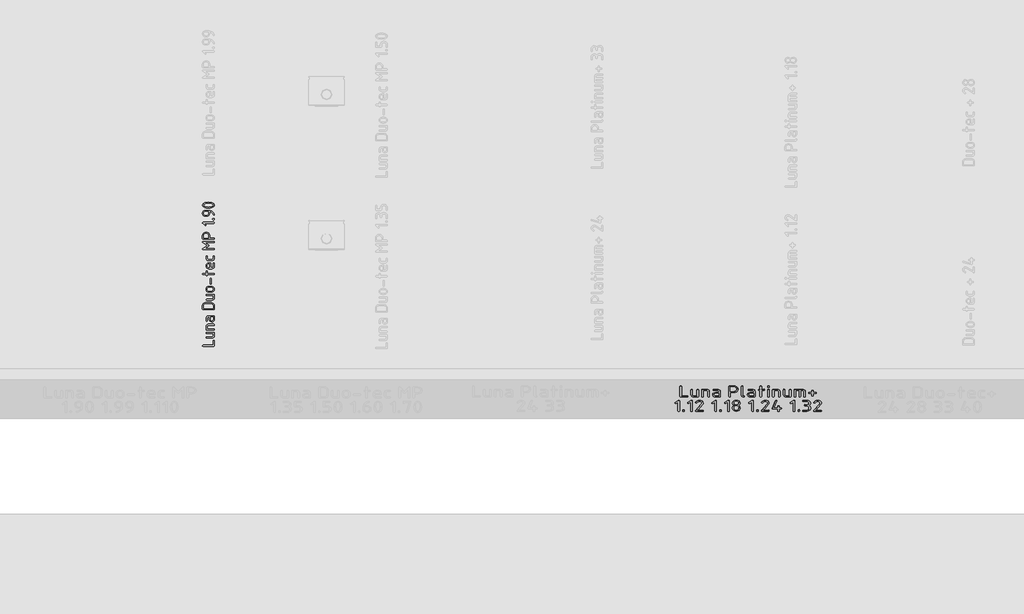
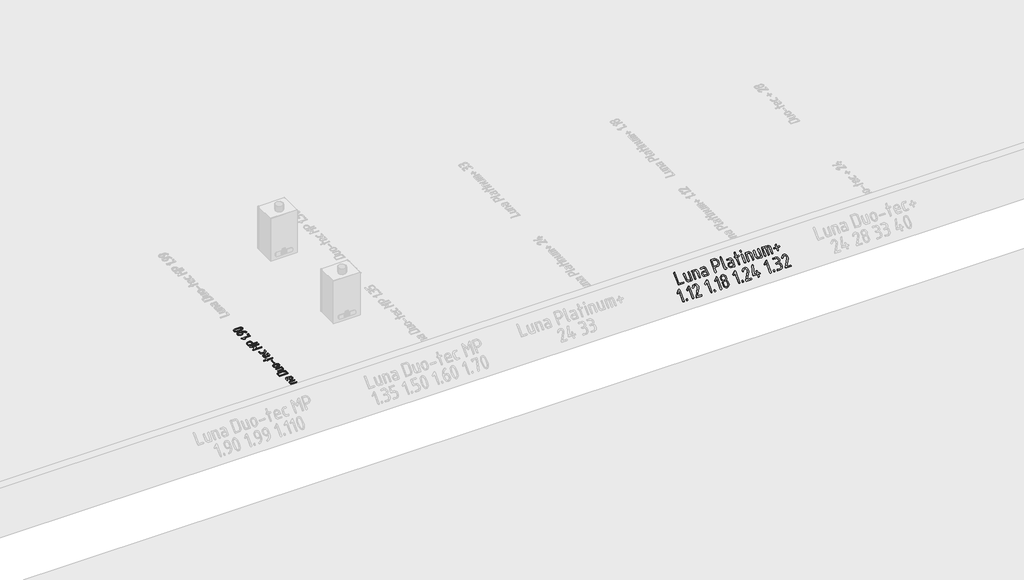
# One storey, part 17 of 37: 2 proxies.
"""IFC4 building model written with IfcOpenShell, lengths in millimetres."""

import ifcopenshell
import ifcopenshell.guid

model = None  # the IFC model being written
_history = None  # IfcOwnerHistory: only IFC2X3 demands one
_inside = {}  # id of a spatial element -> (the spatial element, [elements in it])
_under = {}  # id of a project, library or spatial element -> (it, [spatial elements below it])
_declared = {}  # id of a project -> (the project, [libraries it declares])
_typed = {}  # id of a type object -> (the type object, [elements of that type])
_made_of = {}  # id of a material, layer set ... -> (it, [elements and type objects made of it])


def new_model(schema):
    """Start an empty IFC model of exactly this schema.

    Asked for "IFC4X3", IfcOpenShell would pick the latest addendum, in which some entities
    have other attributes; the version numbers below select the first issue.
    IFC2X3 requires an IfcOwnerHistory on every rooted entity: one is made here for all.
    """
    global model, _history
    if schema == "IFC4X3":
        model = ifcopenshell.file(schema_version=(4, 3, 0, 0))
    else:
        model = ifcopenshell.file(schema=schema)
    _inside.clear()
    _under.clear()
    _declared.clear()
    _typed.clear()
    _made_of.clear()
    _history = None
    if model.schema == "IFC2X3":
        org = make("IfcOrganization", Name="unknown")
        user = make(
            "IfcPersonAndOrganization",
            ThePerson=make("IfcPerson", FamilyName="unknown"),
            TheOrganization=org,
        )
        app = make(
            "IfcApplication",
            ApplicationDeveloper=org,
            Version="unknown",
            ApplicationFullName="unknown",
            ApplicationIdentifier="unknown",
        )
        _history = make(
            "IfcOwnerHistory",
            OwningUser=user,
            OwningApplication=app,
            ChangeAction="ADDED",
            CreationDate=0,
        )
    return model


def make(cls, **values):
    """One entity of the class cls with the attributes given. An attribute that is None is left unset."""
    return model.create_entity(
        cls, **{name: value for name, value in values.items() if value is not None}
    )


def rooted(cls, **values):
    """An entity with a GlobalId (a new one), such as an element, a storey or a relation."""
    return make(cls, GlobalId=ifcopenshell.guid.new(), OwnerHistory=_history, **values)


def si_unit(unit_type, name, prefix=None):
    """IfcSIUnit, for example si_unit("LENGTHUNIT", "METRE", prefix="MILLI")."""
    return make("IfcSIUnit", UnitType=unit_type, Prefix=prefix, Name=name)


def assignment(units):
    """IfcUnitAssignment: the units of a project."""
    return None if units is None else make("IfcUnitAssignment", Units=units)


def point(xyz):
    """IfcCartesianPoint."""
    return None if xyz is None else make("IfcCartesianPoint", Coordinates=xyz)


def direction(xyz):
    """IfcDirection."""
    return None if xyz is None else make("IfcDirection", DirectionRatios=xyz)


def frame(location, z_axis=None, x_axis=None):
    """IfcAxis2Placement3D, a coordinate frame: its origin and axes. An axis left out is left unset."""
    return make(
        "IfcAxis2Placement3D",
        Location=point(location),
        Axis=direction(z_axis),
        RefDirection=direction(x_axis),
    )


def origin():
    """The frame at (0, 0, 0) with its axes left unset."""
    return frame((0.0, 0.0, 0.0))


def origin_with_axes():
    """The frame at (0, 0, 0) with the z axis (0, 0, 1) and the x axis (1, 0, 0) written out."""
    return frame((0.0, 0.0, 0.0), z_axis=(0.0, 0.0, 1.0), x_axis=(1.0, 0.0, 0.0))


def place(relative_to, where):
    """IfcLocalPlacement: puts the frame where relative to a parent placement (None: the world)."""
    return make(
        "IfcLocalPlacement", PlacementRelTo=relative_to, RelativePlacement=where
    )


def context(
    kind, dimensions, precision=None, world=None, true_north=None, identifier=None
):
    """IfcGeometricRepresentationContext, for example the 3D "Model" context."""
    return make(
        "IfcGeometricRepresentationContext",
        ContextIdentifier=identifier,
        ContextType=kind,
        CoordinateSpaceDimension=dimensions,
        Precision=precision,
        WorldCoordinateSystem=world,
        TrueNorth=true_north,
    )


def project(units=None, contexts=None):
    """IfcProject with its units and contexts."""
    return rooted(
        "IfcProject",
        Name="project",
        RepresentationContexts=contexts,
        UnitsInContext=assignment(units),
    )


def spatial(cls, under=None, at=None, **own):
    """A site, building, storey or space (cls), placed at a placement, below another one or the project."""
    s = rooted(cls, ObjectPlacement=at, **own)
    if under is not None:
        _under.setdefault(under.id(), (under, []))[1].append(s)
    return s


def polyline(points):
    """IfcPolyline through the points."""
    return make("IfcPolyline", Points=[point(p) for p in points])


def outline(outer, holes=None, kind="AREA"):
    """IfcArbitraryClosedProfileDef: a profile drawn as a closed curve; with holes, ...WithVoids."""
    if holes is None:
        return make("IfcArbitraryClosedProfileDef", ProfileType=kind, OuterCurve=outer)
    return make(
        "IfcArbitraryProfileDefWithVoids",
        ProfileType=kind,
        OuterCurve=outer,
        InnerCurves=holes,
    )


def extrude(swept, where, along, depth):
    """IfcExtrudedAreaSolid: the profile swept, set in the frame where, extruded along a direction by depth."""
    return make(
        "IfcExtrudedAreaSolid",
        SweptArea=swept,
        Position=where,
        ExtrudedDirection=direction(along),
        Depth=depth,
    )


def shape(context_of_items, identifier, shape_type, items):
    """IfcShapeRepresentation: the items that make up one representation, for example the "Body"."""
    return make(
        "IfcShapeRepresentation",
        ContextOfItems=context_of_items,
        RepresentationIdentifier=identifier,
        RepresentationType=shape_type,
        Items=items,
    )


def made_of(thing, what):
    """Note that an element or type object is made of a material, layer set ...; save() writes the relation."""
    if what is not None:
        _made_of.setdefault(what.id(), (what, []))[1].append(thing)
    return thing


def element(
    cls,
    number,
    at=None,
    inside=None,
    cuts=None,
    type_object=None,
    material=None,
    context=None,
    identifier="Body",
    shape_type=None,
    held_by="IfcProductDefinitionShape",
    body=None,
    shapes=None,
    **own,
):
    """One element of the class cls, such as IfcWall. Its Tag is "e" and its number.

    at: its placement. inside: the storey or other place that contains it. cuts: it is an
    opening in that element (IfcRelVoidsElement). A single representation is given by context,
    identifier, shape_type and body (its items); several are given by shapes. held_by: the class
    of the entity that holds the representations. save() writes the other relations.
    """
    e = rooted(cls, Tag="e%d" % number, ObjectPlacement=at, **own)
    if body is not None:
        shapes = [shape(context, identifier, shape_type, body)]
    if shapes is not None:
        e.Representation = make(held_by, Representations=shapes)
    if inside is not None:
        _inside.setdefault(inside.id(), (inside, []))[1].append(e)
    if cuts is not None:
        rooted(
            "IfcRelVoidsElement", RelatingBuildingElement=cuts, RelatedOpeningElement=e
        )
    if type_object is not None:
        _typed.setdefault(type_object.id(), (type_object, []))[1].append(e)
    return made_of(e, material)


def aggregate(whole, parts):
    """IfcRelAggregates: a whole, such as a stair, and the parts it consists of."""
    return rooted("IfcRelAggregates", RelatingObject=whole, RelatedObjects=parts)


def save(model, path):
    """Write the relations noted so far, then the file.

    IfcRelAggregates (storeys below a building ...), IfcRelContainedInSpatialStructure (elements
    in a storey), IfcRelDefinesByType, IfcRelAssociatesMaterial and IfcRelDeclares: one each for
    every whole, place, type object, material and project.
    """
    for whole, parts in _under.values():
        aggregate(whole, parts)
    for where, things in _inside.values():
        rooted(
            "IfcRelContainedInSpatialStructure",
            RelatedElements=things,
            RelatingStructure=where,
        )
    for kind, things in _typed.values():
        rooted("IfcRelDefinesByType", RelatedObjects=things, RelatingType=kind)
    for what, things in _made_of.values():
        rooted("IfcRelAssociatesMaterial", RelatedObjects=things, RelatingMaterial=what)
    for by, libraries in _declared.values():
        rooted("IfcRelDeclares", RelatingContext=by, RelatedDefinitions=libraries)
    model.write(path)


model = new_model("IFC4")

# Units and contexts
model_context = context("Model", 3, world=origin())
ifc_project = project(units=[si_unit("LENGTHUNIT", "METRE", prefix="MILLI")], contexts=[model_context])

# Site, building, storey
site = spatial("IfcSite", under=ifc_project)
building = spatial("IfcBuilding", under=site)
storey = spatial("IfcBuildingStorey", under=building, Name="01_Стартовый вид_Площадка", Elevation=0.0)

# Proxies
placement = place(None, origin())
element("IfcBuildingElementProxy", 1, Name="200мм", ObjectType="200мм", at=placement, inside=storey, context=model_context, shape_type="SweptSolid", body=[
    extrude(outline(polyline([(181.0073918, 0.0), (188.5582446, -2.5569025), (191.0751955, -10.2276101), (188.5715617, -17.8983177), (181.0606606, -20.4552203), (10.3874165, -20.4552203), (10.3874165, -90.4504271), (7.830514, -97.9613283), (0.1598064, -100.464962), (-7.5109012, -97.9613283), (-10.0678037, -90.4504271), (-10.0678037, -10.2276101), (-7.5508528, -2.5569025), (0.0, 0.0), (181.0073918, 0.0)])), frame((14185.7291081, -4989.2448204, 178.1825168), z_axis=(0.0, -0.7071067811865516, 0.7071067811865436), x_axis=(0.0, 0.7071067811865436, 0.7071067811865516)), (0.0, 0.0, 1.0), 10.0),
    extrude(outline(polyline([(7.8963814, 0.0), (121.2937942, -38.8098098), (127.5601636, -43.5725011), (127.5101016, -51.4095223), (111.5032112, -98.1796553), (103.8057301, -111.7461768), (91.4765408, -120.9968587), (76.5112491, -124.9537749), (60.9054607, -122.6389988), (-24.1173995, -93.5402659), (-30.3578956, -88.7019763), (-30.230214, -80.6381603), (-25.39024, -74.1871075), (-17.4938586, -74.1871075), (67.1762097, -103.1650988), (82.2515299, -102.3002329), (92.2362967, -91.3041202), (104.7416799, -54.7649538), (1.2728405, -19.3531585), (-4.9676556, -14.5148688), (-4.8399741, -6.4510528), (0.0, 0.0), (7.8963814, 0.0)])), frame((14421.816442, -4899.2872485, 268.1400887), z_axis=(0.0, -0.7071067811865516, 0.7071067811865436), x_axis=(0.32380687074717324, -0.6690101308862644, -0.6690101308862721)), (0.0, 0.0, 1.0), 10.0),
    extrude(outline(polyline([(7.8963814, 0.0), (121.2937942, -38.8098097), (127.5601636, -43.5725011), (127.5101016, -51.4095222), (111.5032112, -98.1796552), (103.8057301, -111.7461767), (91.4765408, -120.9968587), (76.5112491, -124.9537748), (60.9054607, -122.6389988), (-24.1173995, -93.5402659), (-30.3578956, -88.7019762), (-30.230214, -80.6381602), (-25.39024, -74.1871074), (-17.4938586, -74.1871074), (67.1762097, -103.1650987), (82.3596044, -102.4779764), (92.2362968, -91.3041201), (104.7416799, -54.7649537), (1.2728405, -19.3531584), (-4.9676556, -14.5148688), (-4.8399741, -6.4510528), (0.0, 0.0), (7.8963814, 0.0)])), frame((14467.8406876, -4994.602913, 172.8244242), z_axis=(0.0, -0.7071067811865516, 0.7071067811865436), x_axis=(-0.32380687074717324, 0.6690101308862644, 0.6690101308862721)), (0.0, 0.0, 1.0), 10.0),
    extrude(outline(polyline([(50.232481, 0.0), (65.7203854, -2.9630772), (78.6247529, -11.8523086), (87.3342021, -25.0429959), (90.2373519, -40.9104406), (84.9104716, -61.5254672), (70.5678465, -76.7470276), (50.232481, -81.8208811), (10.2276101, -81.8208811), (10.2276101, -100.5714997), (15.9806408, -113.9153347), (30.2034112, -119.3221182), (70.208282, -119.3221182), (77.7191832, -121.8790207), (80.222817, -129.5497283), (77.7191832, -137.2204359), (70.208282, -139.7773385), (30.2034112, -139.7773385), (14.628945, -136.8875059), (1.5714297, -128.2180083), (-7.2778502, -115.3402752), (-10.2276101, -99.8257364), (-10.2276101, -9.9612662), (-7.6707076, -2.4903165), (0.0, 0.0), (50.232481, 0.0)]), holes=[polyline([(10.2276101, -61.3656608), (50.232481, -61.3656608), (57.9231644, -59.8741343), (64.3753481, -55.3995549), (68.7500486, -48.7942233), (70.208282, -40.9104406), (64.2954449, -26.5012294), (57.8232854, -21.9667225), (50.232481, -20.4552203), (10.2276101, -20.4552203), (10.2276101, -61.3656608)])]), frame((14693.7004113, -4996.3638327, 171.0635045), z_axis=(0.0, -0.7071067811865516, 0.7071067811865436), x_axis=(-1.0, 0.0, 0.0)), (0.0, 0.0, 1.0), 10.0),
    extrude(outline(polyline([(7.8835354, 0.0), (54.9822837, -15.8674928), (75.3551696, -27.452775), (89.3245981, -46.3241218), (95.3595377, -69.2676231), (91.9289574, -93.0693684), (80.1317631, -115.1766267), (62.1553062, -129.8058846), (40.1087195, -135.8689668), (16.101136, -132.2776977), (-21.3557464, -119.6585341), (-43.2607096, -184.678028), (-48.0307567, -190.8280684), (-56.082337, -190.701191), (-62.5480184, -185.866963), (-62.5603687, -177.8949509), (-4.7707219, -6.3606027), (0.0, 0.0), (7.8835354, 0.0)]), holes=[polyline([(11.2976149, -22.7350648), (-14.8250741, -100.2738403), (22.3289224, -112.7909621), (37.6683221, -114.832067), (52.4892795, -110.4450816), (64.7838936, -100.6679697), (72.5442635, -86.5386961), (74.9157895, -70.5939297), (71.0438718, -55.3703394), (61.898987, -42.9093), (48.4516115, -35.2521866), (11.2976149, -22.7350648)])]), frame((14815.512846, -4855.914007, 311.5133302), z_axis=(0.0, -0.7071067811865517, 0.7071067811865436), x_axis=(0.947664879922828, 0.22575570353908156, 0.2257557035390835)), (0.0, 0.0, 1.0), 10.0),
    extrude(outline(polyline([(160.9250532, 0.0), (168.4759059, -2.5569026), (170.9928568, -10.2276102), (168.4759059, -17.8983178), (160.9250532, -20.4552203), (0.0, -20.4552203), (-6.365622, -22.9521954), (-10.014535, -30.4431208), (-13.6767652, -37.9340462), (-20.0823387, -40.4310213), (-27.6331915, -37.9407048), (-30.1501424, -30.4697552), (-28.1525623, -18.1713204), (-22.159822, -8.4431053), (-12.6247063, -2.1107763), (0.0, 0.0), (160.9250532, 0.0)])), frame((14973.2550882, -4975.0444625, 192.3828746), z_axis=(0.0, -0.7071067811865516, 0.7071067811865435), x_axis=(0.0, 0.7071067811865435, 0.7071067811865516)), (0.0, 0.0, 1.0), 10.0),
    extrude(outline(polyline([(50.232481, 0.0), (65.7203854, -2.9630772), (78.6247529, -11.8523086), (87.3342021, -25.0429959), (90.2373519, -40.9104406), (84.9104716, -61.5254672), (70.5678464, -76.7470276), (50.232481, -81.8208811), (10.2276101, -81.8208811), (10.2276101, -100.5714997), (15.9806408, -113.9153347), (30.2034111, -119.3221182), (70.208282, -119.3221182), (77.7191832, -121.8790207), (80.2228169, -129.5497283), (77.7191832, -137.2204359), (70.208282, -139.7773385), (30.2034111, -139.7773385), (14.6289449, -136.8875059), (1.5714297, -128.2180083), (-7.2778502, -115.3402752), (-10.2276102, -99.8257364), (-10.2276102, -9.9612662), (-7.6707076, -2.4903165), (0.0, 0.0), (50.232481, 0.0)]), holes=[polyline([(10.2276101, -61.3656608), (50.232481, -61.3656608), (57.9231644, -59.8741343), (64.3753481, -55.3995549), (68.7500486, -48.7942233), (70.208282, -40.9104406), (64.2954449, -26.5012294), (57.8232854, -21.9667225), (50.232481, -20.4552203), (10.2276101, -20.4552203), (10.2276101, -61.3656608)])]), frame((15140.3060537, -4996.3638327, 171.0635045), z_axis=(0.0, -0.7071067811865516, 0.7071067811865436), x_axis=(-1.0, 0.0, 0.0)), (0.0, 0.0, 1.0), 10.0),
    extrude(outline(polyline([(109.3608521, 0.0), (109.3608521, 10.0145349), (111.9177546, 17.5254361), (119.5884622, 20.0290698), (127.2591698, 17.5254361), (129.8160723, 10.0145349), (129.8160723, 0.0), (180.954123, 0.0), (188.6248306, -2.5569026), (191.1817331, -10.2276102), (188.6248306, -17.8983178), (180.954123, -20.4552203), (129.8160723, -20.4552203), (129.8160723, -50.4988251), (127.2591698, -57.9697747), (119.5884622, -60.4600912), (111.9177546, -57.9697747), (109.3608521, -50.4988251), (109.3608521, -20.4552203), (0.0, -20.4552203), (-7.4709496, -17.8983178), (-9.9612662, -10.2276102), (-7.4709496, -2.5569026), (0.0, 0.0), (109.3608521, 0.0)])), frame((15211.8993246, -4989.3201538, 178.1071833), z_axis=(0.0, -0.7071067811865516, 0.7071067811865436), x_axis=(0.0, 0.7071067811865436, 0.7071067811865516)), (0.0, 0.0, 1.0), 10.0),
    extrude(outline(polyline([(-40.4252129, 16.4627758), (-34.1768363, 11.6346677), (-34.2913697, 3.5706542), (-39.1208191, -2.8882816), (-47.0171899, -2.9011565), (-160.6290117, 35.7752084), (-166.9152084, 40.6161914), (-166.8132817, 48.6844966), (-161.9712257, 55.1391407), (-154.0370347, 55.1391406), (-40.4252129, 16.4627758)])), frame((15313.3231251, -4873.6079542, 293.819383), z_axis=(0.0, -0.7071067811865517, 0.7071067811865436), x_axis=(-0.32226379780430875, 0.6693825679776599, 0.6693825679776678)), (0.0, 0.0, 1.0), 10.0),
    extrude(outline(polyline([(7.934191, 0.0), (17.4144495, -3.2273221), (23.7006463, -8.0683051), (23.5987196, -16.1366103), (18.7566636, -22.5912544), (10.8224726, -22.5912544), (1.3422141, -19.3639323), (-4.9439827, -14.5229493), (-4.842056, -6.4546441), (0.0, 0.0), (7.934191, 0.0)])), frame((15313.3231251, -4873.6079542, 293.819383), z_axis=(0.0, -0.7071067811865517, 0.7071067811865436), x_axis=(-0.32226379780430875, 0.6693825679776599, 0.6693825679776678)), (0.0, 0.0, 1.0), 10.0),
    extrude(outline(polyline([(7.8963814, 0.0), (121.2937942, -38.8098098), (127.5601636, -43.5725011), (127.5101016, -51.4095223), (111.5032112, -98.1796553), (103.8057301, -111.7461768), (91.4765408, -120.9968587), (76.5112491, -124.9537749), (60.9054607, -122.6389988), (-24.1173995, -93.5402659), (-30.3578956, -88.7019763), (-30.230214, -80.6381603), (-25.39024, -74.1871075), (-17.4938586, -74.1871074), (67.1762097, -103.1650987), (82.3596044, -102.4779765), (92.2362968, -91.3041201), (104.7416799, -54.7649537), (1.2728405, -19.3531584), (-4.9676556, -14.5148688), (-4.8399741, -6.4510528), (0.0, 0.0), (7.8963814, 0.0)])), frame((15374.6887859, -4994.602913, 172.8244242), z_axis=(0.0, -0.7071067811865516, 0.7071067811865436), x_axis=(-0.32380687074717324, 0.6690101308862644, 0.6690101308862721)), (0.0, 0.0, 1.0), 10.0),
    extrude(outline(polyline([(7.8963814, 0.0), (121.2937942, -38.8098097), (127.5601636, -43.5725011), (127.5101016, -51.4095222), (111.5032112, -98.1796552), (103.8057301, -111.7461767), (91.4765408, -120.9968587), (76.5112491, -124.9537748), (60.9054607, -122.6389988), (-24.1173995, -93.5402659), (-30.3578956, -88.7019762), (-30.230214, -80.6381602), (-25.39024, -74.1871074), (-17.4938586, -74.1871074), (67.1762097, -103.1650987), (82.2515299, -102.3002329), (92.2362968, -91.3041201), (104.7416799, -54.7649537), (1.2728405, -19.3531584), (-4.9676556, -14.5148688), (-4.8399741, -6.4510528), (0.0, 0.0), (7.8963814, 0.0)])), frame((15608.2192172, -4899.2872485, 268.1400887), z_axis=(0.0, -0.7071067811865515, 0.7071067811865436), x_axis=(0.32380687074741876, -0.669010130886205, -0.6690101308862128)), (0.0, 0.0, 1.0), 10.0),
    extrude(outline(polyline([(8.0648268, 0.0), (95.6150095, -28.42341), (109.8146858, -36.0716859), (119.6837275, -48.3906321), (124.1620709, -63.3839268), (122.1896523, -79.0552479), (94.4406404, -164.5281404), (89.7017561, -170.8444538), (81.6369293, -170.8444538), (75.110059, -166.1072188), (74.9850443, -158.2118271), (102.6189151, -73.0935939), (103.610512, -65.2736839), (101.3875032, -57.8242882), (96.4501456, -51.7058984), (89.2986962, -47.8790062), (69.8431001, -41.5626929), (36.073852, -145.5792004), (31.3349676, -151.8955138), (23.2701408, -151.8955138), (16.7432705, -147.1582788), (16.6182558, -139.2628871), (50.3875039, -35.2463795), (11.4763116, -22.6137528), (-22.2929365, -126.6302604), (-27.0318209, -132.9465738), (-35.0966477, -132.9465738), (-41.623518, -128.2093388), (-41.7485327, -120.3139471), (-4.7388843, -6.3163134), (0.0, 0.0), (8.0648268, 0.0)])), frame((15654.2434628, -4899.2872485, 268.1400887), z_axis=(0.0, -0.7071067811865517, 0.7071067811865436), x_axis=(0.9511311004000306, 0.21834563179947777, 0.21834563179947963)), (0.0, 0.0, 1.0), 10.0),
    extrude(outline(polyline([(30.6828304, 0.0), (30.6828304, 29.990336), (33.2397329, 37.5012371), (40.9104405, 40.0048709), (48.5811482, 37.5012371), (51.1380507, 29.990336), (51.1380507, 0.0), (79.2639785, 0.0), (86.2954605, -2.5569025), (88.6392878, -10.2276101), (86.2954605, -17.8983177), (79.2639785, -20.4552203), (51.1380507, -20.4552203), (51.1380507, -50.4455562), (48.5811482, -57.9564574), (40.9104405, -60.4600911), (33.2397329, -57.9564574), (30.6828304, -50.4455562), (30.6828304, -20.4552203), (0.0, -20.4552203), (-7.6707076, -17.8983177), (-10.2276102, -10.2276101), (-7.6707076, -2.5569025), (0.0, 0.0), (30.6828304, 0.0)])), frame((15876.6939832, -4974.6677952, 192.7595419), z_axis=(0.0, -0.7071067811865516, 0.7071067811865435), x_axis=(0.0, 0.7071067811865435, 0.7071067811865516)), (0.0, 0.0, 1.0), 10.0),
    extrude(outline(polyline([(156.7700866, 0.0), (133.704695, 23.0121228), (130.8281796, 29.990336), (133.3318134, 37.5012372), (140.8427146, 40.0048709), (147.8209277, 37.0750868), (187.1333041, -2.0242145), (191.0751956, -10.2276101), (188.5582447, -17.8983177), (181.0073918, -20.4552202), (0.0, -20.4552202), (-7.5508528, -17.8983177), (-10.0678037, -10.2276101), (-7.5508528, -2.5569025), (0.0, 0.0), (156.7700866, 0.0)])), frame((14160.1600828, -5174.0582515, -6.6309144), z_axis=(0.0, -0.7071067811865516, 0.7071067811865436), x_axis=(0.0, 0.7071067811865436, 0.7071067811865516)), (0.0, 0.0, 1.0), 10.0),
    extrude(outline(polyline([(10.2276102, 0.0), (17.8983177, -2.5569025), (20.4552203, -10.2276101), (17.8983177, -17.8983177), (10.2276102, -20.4552202), (0.0, -20.4552202), (-7.6707076, -17.8983177), (-10.2276101, -10.2276101), (-7.6707076, -2.5569025), (0.0, 0.0), (10.2276102, 0.0)])), frame((14221.5257436, -5173.9452513, -6.5179142), z_axis=(0.0, -0.7071067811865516, 0.7071067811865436), x_axis=(0.0, 0.7071067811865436, 0.7071067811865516)), (0.0, 0.0, 1.0), 10.0),
    extrude(outline(polyline([(156.7700866, 0.0), (133.704695, 23.0121228), (130.8281796, 29.990336), (133.3318134, 37.5012372), (140.8427146, 40.0048709), (147.8209277, 37.0750868), (187.1333041, -2.0242145), (191.0751956, -10.2276101), (188.5582447, -17.8983177), (181.0073918, -20.4552202), (0.0, -20.4552202), (-7.5508528, -17.8983177), (-10.0678037, -10.2276101), (-7.5508528, -2.5569025), (0.0, 0.0), (156.7700866, 0.0)])), frame((14323.8018449, -5174.0582515, -6.6309144), z_axis=(0.0, -0.7071067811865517, 0.7071067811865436), x_axis=(0.0, 0.7071067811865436, 0.7071067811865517)), (0.0, 0.0, 1.0), 10.0),
    extrude(outline(polyline([(14.6692354, 0.0), (33.1062033, -6.6022306), (47.3681923, -19.9776427), (55.6930957, -37.6934159), (56.3188067, -57.3167297), (51.840737, -71.1866426), (42.8424616, -84.4831553), (-35.1387131, -175.0883818), (26.2241518, -184.7023202), (33.2487615, -188.3909847), (34.5349085, -196.3567718), (30.8741352, -203.5475071), (23.0579834, -204.9110167), (-55.9874908, -192.526681), (-63.0203458, -188.8906433), (-64.3312286, -181.0827367), (-61.7484405, -175.6102614), (28.9539758, -70.2294251), (36.4734081, -54.5849109), (36.0907364, -42.8313549), (31.0839533, -32.2000358), (22.5293124, -24.1671007), (11.503067, -20.2086965), (-5.5868318, -23.8935588), (-23.3858749, -40.1921121), (-32.6617347, -43.6454248), (-39.6945896, -40.0093871), (-41.0054724, -32.2014805), (-39.423307, -28.2976301), (-27.0462713, -14.148815), (-13.9051689, -4.7162717), (0.0, 0.0), (14.6692354, 0.0)])), frame((14420.2150486, -5040.5532294, 126.8741077), z_axis=(0.0, -0.7071067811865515, 0.7071067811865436), x_axis=(0.9879481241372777, 0.10944976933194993, 0.10944976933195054)), (0.0, 0.0, 1.0), 10.0),
    extrude(outline(polyline([(156.7700866, 0.0), (133.704695, 23.0121228), (130.8281796, 29.990336), (133.3318134, 37.5012371), (140.8427146, 40.0048709), (147.8209277, 37.0750867), (187.1333041, -2.0242145), (191.0751956, -10.2276101), (188.5582447, -17.8983177), (181.0073918, -20.4552203), (0.0, -20.4552203), (-7.5508528, -17.8983177), (-10.0678037, -10.2276101), (-7.5508528, -2.5569025), (0.0, 0.0), (156.7700866, 0.0)])), frame((14634.0393522, -5174.0582515, -6.6309144), z_axis=(0.0, -0.7071067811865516, 0.7071067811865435), x_axis=(0.0, 0.7071067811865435, 0.7071067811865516)), (0.0, 0.0, 1.0), 10.0),
    extrude(outline(polyline([(10.2276102, 0.0), (17.8983177, -2.5569025), (20.4552203, -10.2276101), (17.8983177, -17.8983177), (10.2276102, -20.4552203), (0.0, -20.4552203), (-7.6707076, -17.8983177), (-10.2276101, -10.2276101), (-7.6707076, -2.5569025), (0.0, 0.0), (10.2276102, 0.0)])), frame((14695.405013, -5173.9452513, -6.5179142), z_axis=(0.0, -0.7071067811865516, 0.7071067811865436), x_axis=(0.0, 0.7071067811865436, 0.7071067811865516)), (0.0, 0.0, 1.0), 10.0),
    extrude(outline(polyline([(156.7700866, 0.0), (133.704695, 23.0121228), (130.8281796, 29.9903359), (133.3318134, 37.5012371), (140.8427146, 40.0048709), (147.8209277, 37.0750867), (187.1333041, -2.0242145), (191.0751956, -10.2276101), (188.5582447, -17.8983177), (181.0073918, -20.4552203), (0.0, -20.4552203), (-7.5508528, -17.8983177), (-10.0678037, -10.2276101), (-7.5508528, -2.5569025), (0.0, 0.0), (156.7700866, 0.0)])), frame((14797.6811143, -5174.0582515, -6.6309144), z_axis=(0.0, -0.7071067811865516, 0.7071067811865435), x_axis=(0.0, 0.7071067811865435, 0.7071067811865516)), (0.0, 0.0, 1.0), 10.0),
    extrude(outline(polyline([(19.3492934, -1e-07), (37.3021898, -7.2172481), (50.8907264, -21.0775012), (58.4538498, -39.0891101), (58.3305061, -58.7604253), (54.5055923, -78.5294091), (45.2021075, -99.6935115), (26.7831062, -114.1294511), (38.4882707, -134.393831), (39.2261747, -157.5007466), (32.0032554, -175.7984321), (18.2676521, -189.6891516), (0.4899241, -197.4806427), (-18.8593693, -197.4806427), (-36.8122656, -190.2633946), (-50.4008023, -176.4031415), (-57.9639257, -158.3915327), (-57.8405818, -138.7202175), (-48.5370972, -117.5561152), (-30.1180959, -103.1201754), (-38.5930197, -89.0149672), (-41.7235021, -73.3666114), (-38.7362505, -39.9798962), (-31.5133313, -21.6822107), (-17.777728, -7.7914911), (0.0, 0.0), (19.3492934, -1e-07)]), holes=[polyline([(-3.4484071, -117.8294196), (-14.8709321, -117.8371255), (-25.290209, -122.4744252), (-33.3254593, -130.7741326), (-37.5959036, -141.7690618), (-37.69615, -153.469112), (-33.2815193, -164.1979754), (-25.3356544, -172.4496115), (-14.8421979, -176.7179799), (-3.4196729, -176.7102739), (6.9996041, -172.0729742), (15.0348542, -163.7732668), (19.3052985, -152.7783375), (19.4441299, -140.9840215), (15.084541, -130.2861539), (7.1469044, -122.0971486), (-3.4484071, -117.8294196)]), polyline([(15.4636667, -20.0827773), (4.0398768, -20.0970206), (-6.3831947, -24.7539324), (-14.4222394, -33.0732518), (-18.6939486, -44.0747184), (-22.4885059, -63.6868056), (-22.5887524, -75.3868557), (-18.1741217, -86.1157192), (-10.2282567, -94.3673553), (0.2651997, -98.6357236), (11.6877247, -98.6280176), (22.1070017, -93.990718), (30.1422519, -85.6910106), (34.4126962, -74.6960813), (38.2072535, -55.0839941), (38.3473497, -43.2831408), (33.9915553, -32.5656611), (26.0577134, -24.3570436), (15.4636667, -20.0827773)])]), frame((14927.4772109, -5178.5782593, -11.1509222), z_axis=(0.0, -0.7071067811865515, 0.7071067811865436), x_axis=(-0.9817922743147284, -0.13432038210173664, -0.13432038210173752)), (0.0, 0.0, 1.0), 10.0),
    extrude(outline(polyline([(156.7700866, 0.0), (133.704695, 23.0121228), (130.8281796, 29.9903359), (133.3318134, 37.5012371), (140.8427146, 40.0048708), (147.8209277, 37.0750867), (187.1333041, -2.0242145), (191.0751956, -10.2276102), (188.5582447, -17.8983178), (181.0073918, -20.4552203), (0.0, -20.4552203), (-7.5508528, -17.8983178), (-10.0678037, -10.2276102), (-7.5508528, -2.5569026), (0.0, 0.0), (156.7700866, 0.0)])), frame((15107.9186216, -5174.0582515, -6.6309144), z_axis=(0.0, -0.7071067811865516, 0.7071067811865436), x_axis=(0.0, 0.7071067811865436, 0.7071067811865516)), (0.0, 0.0, 1.0), 10.0),
    extrude(outline(polyline([(10.2276102, 0.0), (17.8983177, -2.5569026), (20.4552203, -10.2276102), (17.8983177, -17.8983178), (10.2276102, -20.4552203), (0.0, -20.4552203), (-7.6707076, -17.8983178), (-10.2276101, -10.2276102), (-7.6707076, -2.5569026), (0.0, 0.0), (10.2276102, 0.0)])), frame((15169.2842824, -5173.9452513, -6.5179142), z_axis=(0.0, -0.7071067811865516, 0.7071067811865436), x_axis=(0.0, 0.7071067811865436, 0.7071067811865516)), (0.0, 0.0, 1.0), 10.0),
    extrude(outline(polyline([(14.6692355, -1e-07), (33.1062034, -6.6022306), (47.3681923, -19.9776427), (55.6930957, -37.6934159), (56.3188068, -57.3167297), (51.8407371, -71.1866426), (42.8424616, -84.4831553), (-35.1387131, -175.0883818), (26.2241519, -184.7023202), (33.2487616, -188.3909847), (34.5349086, -196.3567718), (30.8741353, -203.5475071), (23.0579835, -204.9110167), (-55.9874908, -192.526681), (-63.0203458, -188.8906433), (-64.3312285, -181.0827367), (-61.7484404, -175.6102614), (28.9539759, -70.2294251), (36.4734082, -54.5849109), (36.0907364, -42.8313549), (31.0839534, -32.2000358), (22.5293125, -24.1671007), (11.5030671, -20.2086965), (-5.5868318, -23.8935588), (-23.3858748, -40.1921121), (-32.6617347, -43.6454248), (-39.6945896, -40.0093871), (-41.0054723, -32.2014805), (-39.423307, -28.2976301), (-27.0462712, -14.148815), (-13.9051688, -4.7162717), (0.0, 0.0), (14.6692355, -1e-07)])), frame((15265.6974861, -5040.5532294, 126.8741077), z_axis=(0.0, -0.7071067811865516, 0.7071067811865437), x_axis=(0.987948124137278, 0.1094497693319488, 0.10944976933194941)), (0.0, 0.0, 1.0), 10.0),
    extrude(outline(polyline([(7.917185, 0.0), (10.3934109, -1.1623101), (130.7514683, -83.4504991), (134.8406101, -88.4913877), (134.6089903, -94.955685), (129.8713131, -101.2936443), (121.9920295, -101.306278), (119.4147331, -99.941827), (10.4776363, -25.3349921), (-4.3291842, -69.7554535), (24.1726819, -79.2560755), (30.4516834, -84.044288), (30.3885144, -92.1088674), (25.600302, -98.5984324), (17.7041733, -98.6616014), (-10.7976928, -89.1609793), (-17.1314408, -108.1622233), (-21.9196532, -114.4412249), (-29.9842326, -114.3780559), (-36.4737975, -109.5898434), (-36.5369666, -101.6937147), (-30.2032186, -82.6924707), (-59.3115073, -72.9897078), (-65.780016, -68.1383264), (-65.7800159, -60.0526906), (-60.9286345, -53.584182), (-52.8429987, -53.584182), (-23.73471, -63.2869449), (-4.750311, -6.333748), (0.0, 0.0), (7.917185, 0.0)])), frame((15371.0665073, -5150.4788775, 16.9484597), z_axis=(0.0, -0.7071067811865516, 0.7071067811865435), x_axis=(-0.3162277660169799, 0.6708203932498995, 0.6708203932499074)), (0.0, 0.0, 1.0), 10.0),
    extrude(outline(polyline([(156.7700866, 0.0), (133.704695, 23.0121228), (130.8281796, 29.990336), (133.3318134, 37.5012372), (140.8427146, 40.0048709), (147.8209277, 37.0750867), (187.1333041, -2.0242145), (191.0751956, -10.2276101), (188.5582447, -17.8983177), (181.0073918, -20.4552202), (0.0, -20.4552202), (-7.5508528, -17.8983177), (-10.0678037, -10.2276101), (-7.5508528, -2.5569025), (0.0, 0.0), (156.7700866, 0.0)])), frame((15639.7543485, -5174.0582515, -6.6309144), z_axis=(0.0, -0.7071067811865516, 0.7071067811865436), x_axis=(0.0, 0.7071067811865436, 0.7071067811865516)), (0.0, 0.0, 1.0), 10.0),
    extrude(outline(polyline([(10.2276102, 0.0), (17.8983177, -2.5569025), (20.4552203, -10.2276101), (17.8983177, -17.8983177), (10.2276102, -20.4552202), (0.0, -20.4552202), (-7.6707076, -17.8983177), (-10.2276101, -10.2276101), (-7.6707076, -2.5569025), (0.0, 0.0), (10.2276102, 0.0)])), frame((15701.1200093, -5173.9452513, -6.5179142), z_axis=(0.0, -0.7071067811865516, 0.7071067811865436), x_axis=(0.0, 0.7071067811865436, 0.7071067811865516)), (0.0, 0.0, 1.0), 10.0),
    extrude(outline(polyline([(11.7053441, 0.0), (31.3410586, 3.6703332), (39.1938897, 2.537007), (43.0643073, -4.5430923), (42.0127056, -12.5432217), (35.0994798, -16.4366384), (15.4637653, -20.1069717), (4.465269, -24.43209), (-3.8154004, -32.787719), (-8.4170171, -43.7206871), (-8.3783555, -55.7778225), (-4.0517069, -66.9657026), (4.2497875, -75.5003523), (15.0165566, -80.3362531), (26.7390288, -80.4278864), (66.0628196, -73.0774324), (73.9156509, -74.2107585), (77.7860684, -81.2908578), (76.7344668, -89.2909873), (69.8212408, -93.184404), (30.49745, -100.5348579), (10.8458725, -100.387662), (-7.2665741, -92.3117813), (-21.2427029, -78.0977854), (-28.4853271, -59.5362437), (-27.7768505, -36.0744133), (-16.3140932, -15.6421798), (-34.2831278, -1.2668369), (-43.2938981, 19.6873188), (-46.9348687, 39.1659475), (-46.7759269, 58.6097289), (-38.7235341, 76.4129584), (-24.658181, 90.0971196), (-6.4603584, 97.1836959), (32.8634324, 104.5341499), (40.7162637, 103.4008238), (44.5866812, 96.3207245), (43.5350796, 88.320595), (36.6218536, 84.4271783), (-2.7019372, 77.0767244), (-13.7175616, 72.8432393), (-22.0496157, 64.7625103), (-26.727086, 54.235347), (-26.7789593, 42.6625591), (-23.1771389, 23.393378), (-18.9410252, 12.6898456), (-10.7153844, 4.5610007), (0.0, 0.0), (11.7053441, 0.0)])), frame((15822.4130732, -5112.7886041, 54.638733), z_axis=(0.0, -0.7071067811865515, 0.7071067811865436), x_axis=(-0.9829750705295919, 0.12992307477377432, 0.12992307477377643)), (0.0, 0.0, 1.0), 10.0),
    extrude(outline(polyline([(14.6692354, 0.0), (33.1062033, -6.6022306), (47.3681922, -19.9776427), (55.6930956, -37.6934159), (56.3188067, -57.3167297), (51.840737, -71.1866426), (42.8424615, -84.4831552), (-35.1387131, -175.0883818), (26.2241518, -184.7023202), (33.2487615, -188.3909847), (34.5349085, -196.3567718), (30.8741352, -203.5475071), (23.0579834, -204.9110167), (-55.9874909, -192.526681), (-63.0203459, -188.8906433), (-64.3312286, -181.0827367), (-61.7484405, -175.6102614), (28.9539758, -70.2294251), (36.4734081, -54.5849109), (36.0907364, -42.8313549), (31.0839533, -32.2000358), (22.5293124, -24.1671007), (11.503067, -20.2086965), (-5.5868318, -23.8935588), (-23.3858749, -40.1921121), (-32.6617348, -43.6454248), (-39.6945897, -40.0093871), (-41.0054724, -32.2014805), (-39.423307, -28.2976301), (-27.0462713, -14.148815), (-13.9051689, -4.7162717), (0.0, 0.0), (14.6692354, 0.0)])), frame((15937.3105515, -5040.5532294, 126.8741077), z_axis=(0.0, -0.7071067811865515, 0.7071067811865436), x_axis=(0.9879481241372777, 0.10944976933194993, 0.10944976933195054)), (0.0, 0.0, 1.0), 10.0),
])
element("IfcBuildingElementProxy", 2, Name="150 мм", ObjectType="150 мм", at=placement, inside=storey, context=model_context, shape_type="SweptSolid", body=[
    extrude(outline(polyline([(8069.0233862, -4353.3272913), (8063.3602466, -4351.4096144), (8061.4725334, -4345.6565837), (8063.3502587, -4339.903553), (8068.9834346, -4337.9858761), (8196.9883677, -4337.9858761), (8196.9883677, -4285.489471), (8198.9060446, -4279.8562951), (8204.6590753, -4277.9785698), (8210.412106, -4279.8562951), (8212.3297829, -4285.489471), (8212.3297829, -4345.6565837), (8210.4420697, -4351.4096144), (8204.7789301, -4353.3272913), (8069.0233862, -4353.3272913)])), origin_with_axes(), (0.0, 0.0, 1.0), 10.0),
    extrude(outline(polyline([(8114.9677286, -4174.344114), (8204.8588333, -4174.344114), (8210.4620455, -4176.2018635), (8212.3297829, -4181.775112), (8212.3297829, -4218.8501987), (8210.1624084, -4230.3462722), (8203.6602852, -4239.904693), (8194.0019854, -4246.3468888), (8182.3660813, -4248.4942874), (8114.9677286, -4248.4942874), (8109.3645164, -4246.5766105), (8107.496779, -4240.8235798), (8109.3645164, -4235.0705491), (8114.9677286, -4233.1528722), (8182.0864201, -4233.1528722), (8192.5737156, -4228.8780508), (8196.9883677, -4218.6504407), (8196.9883677, -4189.6855292), (8114.9677286, -4189.6855292), (8109.3645164, -4187.7678523), (8107.496779, -4182.0148216), (8109.3645164, -4176.2617909), (8114.9677286, -4174.344114)])), origin_with_axes(), (0.0, 0.0, 1.0), 10.0),
    extrude(outline(polyline([(8204.8588333, -4143.6612836), (8114.9677286, -4143.6612836), (8109.3645164, -4141.8035341), (8107.496779, -4136.2302856), (8107.496779, -4099.1551989), (8109.6641534, -4087.6591254), (8116.1662767, -4078.1007046), (8125.8245765, -4071.6585087), (8137.4604806, -4069.5111101), (8204.8588333, -4069.5111101), (8210.4620455, -4071.428787), (8212.3297829, -4077.1818177), (8210.4620455, -4082.9348484), (8204.8588333, -4084.8525253), (8137.7401418, -4084.8525253), (8127.1329914, -4089.0274677), (8122.8381942, -4099.3549569), (8122.8381942, -4128.3198684), (8204.8588333, -4128.3198684), (8210.4620455, -4130.2375453), (8212.3297829, -4135.990576), (8210.4620455, -4141.7436067), (8204.8588333, -4143.6612836)])), origin_with_axes(), (0.0, 0.0, 1.0), 10.0),
    extrude(outline(polyline([(8212.3297829, -4010.0231746), (8210.107475, -4021.6391029), (8203.4405514, -4031.3173785), (8193.5475359, -4037.8494655), (8181.6469525, -4040.0268278), (8166.1856825, -4036.0316676), (8154.7695122, -4025.2746987), (8150.9641221, -4010.0231746), (8150.9641221, -3980.0195215), (8136.9011581, -3980.0195215), (8126.8932818, -3984.3342945), (8122.8381942, -3995.0013723), (8122.8381942, -4025.0050254), (8120.9205173, -4030.6382013), (8115.1674866, -4032.5159266), (8109.4144559, -4030.6382013), (8107.496779, -4025.0050254), (8107.496779, -3995.0013723), (8109.6641534, -3983.3205226), (8116.1662767, -3973.5273861), (8125.8245765, -3966.8904262), (8137.4604806, -3964.6781063), (8204.8588333, -3964.6781063), (8210.4620455, -3966.5957832), (8212.3297829, -3972.3488139), (8212.3297829, -4010.0231746)]), holes=[polyline([(8166.3055373, -3980.0195215), (8166.3055373, -4010.0231746), (8170.7801167, -4020.630325), (8181.6469525, -4025.0050254), (8192.4538608, -4020.5703976), (8196.9883677, -4010.0231746), (8196.9883677, -3980.0195215), (8166.3055373, -3980.0195215)])]), origin_with_axes(), (0.0, 0.0, 1.0), 10.0),
    extrude(outline(polyline([(8069.0233862, -3882.8572252), (8063.3602466, -3880.9894878), (8061.4725334, -3875.3862756), (8061.4725334, -3830.6404813), (8064.1992302, -3816.1680135), (8072.3793208, -3804.1525691), (8084.5345957, -3796.0623697), (8099.1868458, -3793.3656366), (8174.6154705, -3793.3656366), (8189.117902, -3796.0923334), (8201.3031407, -3804.2724239), (8209.5731223, -3816.317832), (8212.3297829, -3830.6404813), (8212.3297829, -3875.3862756), (8210.4420697, -3880.9894878), (8204.7789301, -3882.8572252), (8069.0233862, -3882.8572252)]), holes=[polyline([(8076.8139486, -3867.51581), (8196.9883677, -3867.51581), (8196.9883677, -3830.7603361), (8195.3403641, -3822.2856025), (8190.3963533, -3815.1592355), (8183.1151738, -3810.3200977), (8174.4556641, -3808.7070518), (8099.3466522, -3808.7070518), (8090.6871424, -3810.3200977), (8083.4059629, -3815.1592355), (8078.4619522, -3822.2856025), (8076.8139486, -3830.7603361), (8076.8139486, -3867.51581)])]), origin_with_axes(), (0.0, 0.0, 1.0), 10.0),
    extrude(outline(polyline([(8114.9677286, -3688.5326327), (8204.8588333, -3688.5326327), (8210.4620455, -3690.3903822), (8212.3297829, -3695.9636307), (8212.3297829, -3733.0387174), (8210.1624084, -3744.5347909), (8203.6602852, -3754.0932117), (8194.0019854, -3760.5354076), (8182.3660813, -3762.6828062), (8114.9677286, -3762.6828062), (8109.3645164, -3760.7651293), (8107.496779, -3755.0120986), (8109.3645164, -3749.2590679), (8114.9677286, -3747.341391), (8182.0864201, -3747.341391), (8192.5737156, -3743.0665696), (8196.9883677, -3732.8389594), (8196.9883677, -3703.8740479), (8114.9677286, -3703.8740479), (8109.3645164, -3701.956371), (8107.496779, -3696.2033403), (8109.3645164, -3690.4503096), (8114.9677286, -3688.5326327)])), origin_with_axes(), (0.0, 0.0, 1.0), 10.0),
    extrude(outline(polyline([(8174.8951317, -3657.8498023), (8144.9314301, -3657.8498023), (8130.5388655, -3655.1380873), (8118.443518, -3647.0029424), (8110.2334637, -3635.0224557), (8107.496779, -3620.7747156), (8110.2035, -3606.377157), (8118.3236632, -3594.426634), (8130.389047, -3586.3813802), (8144.9314301, -3583.6996289), (8174.8951317, -3583.6996289), (8189.2876964, -3586.4113439), (8201.3830439, -3594.5464888), (8209.5930981, -3606.5269755), (8212.3297829, -3620.7747156), (8209.5930981, -3635.0224557), (8201.3830439, -3647.0029424), (8189.2876964, -3655.1380873), (8174.8951317, -3657.8498023)]), holes=[polyline([(8174.4556641, -3599.0410441), (8144.4520109, -3599.0410441), (8135.8224649, -3600.6341142), (8128.5512733, -3605.4133246), (8123.6072625, -3612.4398126), (8121.959259, -3620.7747156), (8123.6072625, -3629.1096186), (8128.5512733, -3636.1361066), (8135.8224649, -3640.915317), (8144.4520109, -3642.5083871), (8174.4556641, -3642.5083871), (8183.1651133, -3640.9302989), (8190.4363049, -3636.196034), (8195.350352, -3629.1845278), (8196.9883677, -3620.7747156), (8195.3403641, -3612.4398126), (8190.3963533, -3605.4133246), (8183.1151738, -3600.6341142), (8174.4556641, -3599.0410441)])]), origin_with_axes(), (0.0, 0.0, 1.0), 10.0),
    extrude(outline(polyline([(8173.9762449, -3485.8581554), (8173.9762449, -3545.8654617), (8172.058568, -3551.4986376), (8166.3055373, -3553.3763629), (8160.5525066, -3551.4986376), (8158.6348297, -3545.8654617), (8158.6348297, -3485.8581554), (8160.5525066, -3480.2249795), (8166.3055373, -3478.3472542), (8172.058568, -3480.2249795), (8173.9762449, -3485.8581554)])), origin_with_axes(), (0.0, 0.0, 1.0), 10.0),
    extrude(outline(polyline([(8122.8381942, -3432.8423794), (8122.8381942, -3440.3532806), (8120.9205173, -3445.9864565), (8115.1674866, -3447.8641818), (8109.4144559, -3445.9864565), (8107.496779, -3440.3532806), (8107.496779, -3432.8423794), (8069.143241, -3432.8423794), (8063.3902103, -3430.9247025), (8061.4725334, -3425.1716718), (8063.3902103, -3419.4186411), (8069.143241, -3417.5009642), (8107.496779, -3417.5009642), (8107.496779, -3394.9682607), (8109.4144559, -3389.3650485), (8115.1674866, -3387.4973111), (8120.9205173, -3389.3650485), (8122.8381942, -3394.9682607), (8122.8381942, -3417.5009642), (8204.8588333, -3417.5009642), (8210.4620455, -3419.4186411), (8212.3297829, -3425.1716718), (8210.4620455, -3430.9247025), (8204.8588333, -3432.8423794), (8122.8381942, -3432.8423794)])), origin_with_axes(), (0.0, 0.0, 1.0), 10.0),
    extrude(outline(polyline([(8166.3055373, -3343.3507908), (8181.6469525, -3343.3507908), (8192.4538608, -3338.916163), (8196.9883677, -3328.36894), (8196.9883677, -3290.8543857), (8198.9060446, -3285.2212098), (8204.6590753, -3283.3434845), (8210.412106, -3285.2212098), (8212.3297829, -3290.8543857), (8212.3297829, -3328.36894), (8210.1624084, -3340.0248199), (8203.6602852, -3349.8229503), (8194.0019854, -3356.4748921), (8182.3660813, -3358.692206), (8144.9314301, -3358.692206), (8130.5388655, -3355.9105757), (8118.443518, -3347.5656848), (8110.2334637, -3335.3255127), (8107.496779, -3320.8580388), (8110.1535605, -3306.280698), (8118.1239052, -3294.1903444), (8129.9695552, -3286.0551995), (8144.2522529, -3283.3434845), (8166.3055373, -3283.3434845), (8166.3055373, -3343.3507908)]), holes=[polyline([(8120.9604689, -3320.8580388), (8122.6084725, -3329.4875849), (8127.5524832, -3336.7587764), (8134.8236748, -3341.7027872), (8143.4532209, -3343.3507908), (8150.9641221, -3343.3507908), (8150.9641221, -3298.3652868), (8143.4532209, -3298.3652868), (8134.8236748, -3300.0132904), (8127.5524832, -3304.9573012), (8122.6084725, -3312.2284928), (8120.9604689, -3320.8580388)])]), origin_with_axes(), (0.0, 0.0, 1.0), 10.0),
    extrude(outline(polyline([(8137.6602386, -3238.5177869), (8182.1663233, -3238.5177869), (8192.6136672, -3234.0831591), (8196.9883677, -3223.5359362), (8196.9883677, -3201.0032326), (8198.9060446, -3195.4000204), (8204.6590753, -3193.532283), (8210.412106, -3195.4000204), (8212.3297829, -3201.0032326), (8212.3297829, -3223.5359362), (8210.1624084, -3235.1918161), (8203.6602852, -3244.9899465), (8194.0019854, -3251.6418882), (8182.3660813, -3253.8592021), (8137.4604806, -3253.8592021), (8125.8245765, -3251.6418882), (8116.1662767, -3244.9899465), (8109.6641534, -3235.1918161), (8107.496779, -3223.5359362), (8107.496779, -3201.0032326), (8109.4144559, -3195.4000204), (8115.1674866, -3193.532283), (8120.9205173, -3195.4000204), (8122.8381942, -3201.0032326), (8122.8381942, -3223.5359362), (8127.172943, -3234.1430865), (8137.6602386, -3238.5177869)])), origin_with_axes(), (0.0, 0.0, 1.0), 10.0),
    extrude(outline(polyline([(8061.4725334, -3016.7064922), (8063.3602466, -3010.4740423), (8069.0233862, -3008.396559), (8204.7789301, -3008.396559), (8210.4420697, -3010.3142359), (8212.3297829, -3016.0672666), (8210.4420697, -3021.8202973), (8204.7789301, -3023.7379742), (8093.8333311, -3023.7379742), (8139.6578187, -3053.9413853), (8144.1723497, -3060.8130609), (8139.6578187, -3067.7646397), (8093.8333311, -3097.8881476), (8204.7789301, -3097.8881476), (8210.4420697, -3099.8058245), (8212.3297829, -3105.5588552), (8210.4420697, -3111.3118859), (8204.7789301, -3113.2295628), (8069.0233862, -3113.2295628), (8063.3602466, -3111.1920311), (8061.4725334, -3105.079436), (8065.227984, -3097.8881476), (8123.1977586, -3060.9329157), (8064.7885164, -3023.7379742), (8061.4725334, -3016.7064922)])), origin_with_axes(), (0.0, 0.0, 1.0), 10.0),
    extrude(outline(polyline([(8061.4725334, -2970.242779), (8061.4725334, -2932.9679342), (8064.828468, -2915.7138361), (8074.8962717, -2901.266338), (8089.7582677, -2891.4831894), (8107.496779, -2888.2221399), (8126.0343224, -2891.3133951), (8140.7365119, -2900.5871608), (8150.3248964, -2914.8049372), (8153.5210246, -2932.7282246), (8153.5210246, -2962.3723134), (8204.9786881, -2962.3723134), (8210.4920092, -2964.2899903), (8212.3297829, -2970.043021), (8210.4420697, -2975.7960517), (8204.7789301, -2977.7137286), (8069.0233862, -2977.7137286), (8063.3602466, -2975.8459912), (8061.4725334, -2970.242779)]), holes=[polyline([(8076.8139486, -2962.3723134), (8138.1796094, -2962.3723134), (8138.1796094, -2932.9679342), (8135.9573015, -2921.5767337), (8129.2903779, -2912.0932222), (8119.3973625, -2905.6959719), (8107.496779, -2903.5635551), (8095.5961955, -2905.6959719), (8085.7031801, -2912.0932222), (8079.0362565, -2921.5767337), (8076.8139486, -2932.9679342), (8076.8139486, -2962.3723134)])]), origin_with_axes(), (0.0, 0.0, 1.0), 10.0),
    extrude(outline(polyline([(8087.2013651, -2775.7184285), (8104.5004088, -2792.9775206), (8106.6577954, -2798.2111804), (8104.7800701, -2803.8443563), (8099.1468942, -2805.7220816), (8093.9132343, -2803.5247435), (8064.428952, -2774.2002676), (8061.4725334, -2768.0477209), (8063.3602466, -2762.2946902), (8069.0233862, -2760.3770133), (8204.7789301, -2760.3770133), (8210.4420697, -2762.2946902), (8212.3297829, -2768.0477209), (8210.4420697, -2773.8007516), (8204.7789301, -2775.7184285), (8087.2013651, -2775.7184285)])), origin_with_axes(), (0.0, 0.0, 1.0), 10.0),
    extrude(outline(polyline([(8196.9883677, -2729.6941829), (8191.235337, -2727.776506), (8189.3176601, -2722.0234753), (8191.235337, -2716.2704446), (8196.9883677, -2714.3527677), (8204.6590753, -2714.3527677), (8210.412106, -2716.2704446), (8212.3297829, -2722.0234753), (8210.412106, -2727.776506), (8204.6590753, -2729.6941829), (8196.9883677, -2729.6941829)])), origin_with_axes(), (0.0, 0.0, 1.0), 10.0),
    extrude(outline(polyline([(8212.3297829, -2660.9774273), (8210.0924931, -2666.0912324), (8204.9786881, -2668.3285221), (8198.6263833, -2664.6529747), (8192.5137882, -2651.3091396), (8175.0749139, -2632.8714752), (8153.5210246, -2624.861179), (8153.5210246, -2646.554899), (8150.7194185, -2660.8326028), (8142.3146002, -2672.8230773), (8129.9246096, -2680.9582223), (8115.1674866, -2683.6699373), (8099.8260714, -2683.6699373), (8085.0689484, -2680.9582223), (8072.6789578, -2672.8230773), (8064.2741395, -2660.8425907), (8061.4725334, -2646.5948506), (8064.1992302, -2632.2722012), (8072.3793208, -2620.3066964), (8084.4746683, -2612.216497), (8098.9471362, -2609.5197638), (8144.4520109, -2609.5197638), (8162.6424747, -2611.6996231), (8178.8203766, -2618.239201), (8192.9857165, -2629.1384974), (8205.1384945, -2644.3975124), (8212.3297829, -2660.9774273)]), holes=[polyline([(8138.1796094, -2624.861179), (8100.665055, -2624.861179), (8092.035509, -2626.4542492), (8084.7643174, -2631.2334596), (8079.8203067, -2638.2599476), (8078.1723031, -2646.5948506), (8079.8203067, -2654.9297535), (8084.7643174, -2661.9562416), (8092.035509, -2666.735452), (8100.665055, -2668.3285221), (8115.6469058, -2668.3285221), (8124.3813248, -2666.7504338), (8131.6475225, -2662.016169), (8136.5465877, -2655.0046628), (8138.1796094, -2646.5948506), (8138.1796094, -2624.861179)])]), origin_with_axes(), (0.0, 0.0, 1.0), 10.0),
    extrude(outline(polyline([(8136.9011581, -2504.68676), (8162.0407037, -2506.3147878), (8183.5246778, -2511.1988711), (8205.1285066, -2523.6138315), (8210.5294638, -2531.9712072), (8212.3297829, -2541.7618467), (8210.5369547, -2551.5524862), (8205.1584703, -2559.909862), (8183.6445326, -2572.3248223), (8162.1305948, -2577.2089057), (8136.9011581, -2578.8369334), (8111.6717214, -2577.2089057), (8090.1577837, -2572.3248223), (8068.643846, -2559.909862), (8063.2653616, -2551.5524862), (8061.4725334, -2541.7618467), (8063.2728525, -2531.9712072), (8068.6738097, -2523.6138315), (8090.2776385, -2511.1988711), (8111.7616125, -2506.3147878), (8136.9011581, -2504.68676)]), holes=[polyline([(8136.9011581, -2520.0281752), (8101.7437483, -2523.863529), (8083.0463985, -2531.2545754), (8076.8139486, -2541.7618467), (8083.0763622, -2552.179227), (8101.8636031, -2559.5403096), (8136.9011581, -2563.4955182), (8172.058568, -2559.6601644), (8190.7559177, -2552.2691181), (8196.9883677, -2541.7618467), (8190.7559177, -2531.2545754), (8172.058568, -2523.863529), (8136.9011581, -2520.0281752)])]), origin_with_axes(), (0.0, 0.0, 1.0), 10.0),
])

save(model, "model.ifc")
